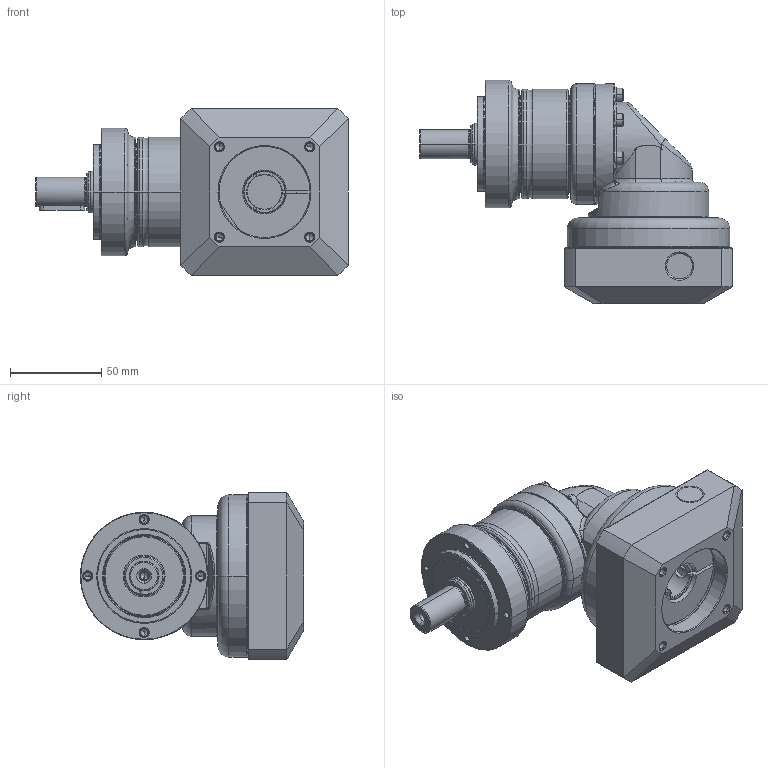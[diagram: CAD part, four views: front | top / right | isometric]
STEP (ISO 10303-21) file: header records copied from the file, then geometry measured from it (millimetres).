
FILE_DESCRIPTION((''),'2;1');
FILE_NAME('PE2R-070_1ST_19-P0411400101_ASM','2016-05-09T',('d00435'),(''),'PRO/ENGINEER BY PARAMETRIC TECHNOLOGY CORPORATION, 2008410','PRO/ENGINEER BY PARAMETRIC TECHNOLOGY CORPORATION, 2008410','');
FILE_SCHEMA(('CONFIG_CONTROL_DESIGN'));
Length unit declared in the file: millimetre
Products named in the file (12): P1323210001; P0250200001; P0350201001; P1349200001; P1017200001; P0713203001; P0503400008; P1350200301; P0411400101; P1702500001; 2111B104020; PE2R-070_1ST_19-P0411400101_ASM
Assembly tree (16 placements, depth 2):
  PE2R-070_1ST_19-P0411400101_ASM
    P1323210001
    P0250200001
    P0350201001
    P1349200001
    P1017200001
    P0713203001
    P0503400008
    P1350200301
    P0411400101
    P1702500001
    2111B104020  x6
Bounding box: 171.5 x 122.5 x 92 mm (x, y, z)
Volume: 545464.7 mm3; surface area: 145872.7 mm2
Topology: 16 solids, 32 shells, 845 faces, 1874 edges, 1105 vertices
Faces by surface type: cylinder 277, cone 224, plane 210, torus 102, bspline 32
Entity records: 24931 total; most frequent: CARTESIAN_POINT 9437, DIRECTION 3490, ORIENTED_EDGE 2916, EDGE_CURVE 1490, AXIS2_PLACEMENT_3D 1486, VERTEX_POINT 905, CIRCLE 800, EDGE_LOOP 783
